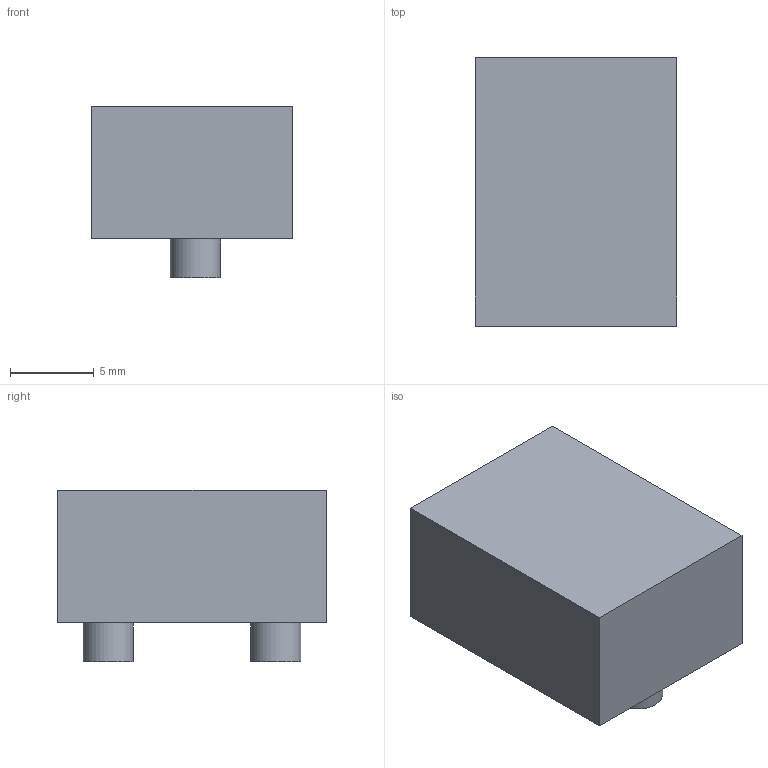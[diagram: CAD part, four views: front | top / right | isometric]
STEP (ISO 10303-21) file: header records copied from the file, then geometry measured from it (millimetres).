
FILE_DESCRIPTION(('SkyG Speed 90B - revision C6B-24 - 2026-10-17','BF-battery-front-stop'),'2;1');
FILE_NAME('BF-battery-front-stop_C6B-24','2026-10-17T13:26:41',('Author'),( 'Open CASCADE'),'Open CASCADE STEP processor 7.9','Open CASCADE 7.9' ,'Unknown');
FILE_SCHEMA(('AUTOMOTIVE_DESIGN { 1 0 10303 214 1 1 1 1 }'));
Length unit declared in the file: millimetre
Products named in the file (1): BF-battery-front-stop C6B-24
Bounding box: 12 x 16 x 10.2 mm (x, y, z)
Volume: 1549.3 mm3; surface area: 869.8 mm2
Topology: 1 solids, 1 shells, 10 faces, 18 edges, 12 vertices
Faces by surface type: plane 8, cylinder 2
Full cylindrical faces by diameter (mm): 3 x2
Entity records: 490 total; most frequent: DIRECTION 80, CARTESIAN_POINT 77, LINE 46, VECTOR 46, ORIENTED_EDGE 36, PCURVE 36, DEFINITIONAL_REPRESENTATION 36, EDGE_CURVE 18
